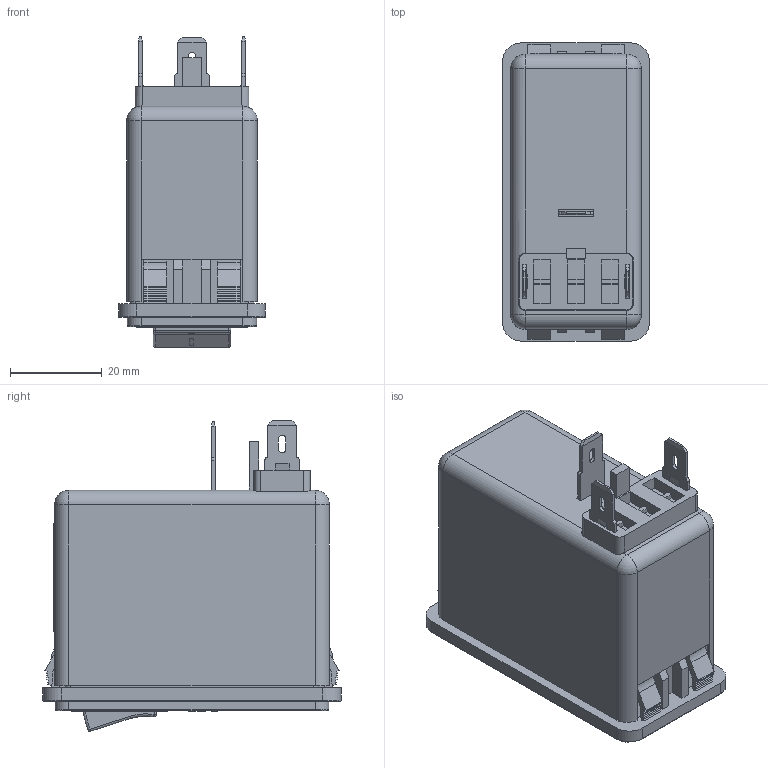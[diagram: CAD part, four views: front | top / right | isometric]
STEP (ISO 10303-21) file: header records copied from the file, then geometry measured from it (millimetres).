
FILE_DESCRIPTION((''),'2;1');
FILE_NAME('D:\_ PRODUCT\FN281-6\_New design for 1fuse\Version_3_update FH_after tel.con_030609\FN285-xx-06_.stp','2012-10-24T09:18:09',('sayan.penton'),(''),'Autodesk Inventor 2010','Autodesk Inventor 2010','');
FILE_SCHEMA(('AUTOMOTIVE_DESIGN { 1 0 10303 214 1 1 1 1 }'));
Length unit declared in the file: millimetre
Products named in the file (1): Part4
Bounding box: 32 x 65 x 67.75 mm (x, y, z)
Volume: 32465.2 mm3; surface area: 42574.9 mm2
Topology: 1 solids, 1 shells, 3177 faces, 9231 edges, 6081 vertices
Faces by surface type: plane 2515, bspline 480, cylinder 162, torus 12, sphere 8
Full cylindrical faces by diameter (mm): 0.46 x1, 0.56 x1, 1.2 x2, 1.5 x2, 2.135 x1, 2.55 x1, 2.99 x1, 3 x1, 3.134 x1, 4 x2
Entity records: 118323 total; most frequent: CARTESIAN_POINT 33325, ORIENTED_EDGE 18416, DIRECTION 14470, EDGE_CURVE 9208, VECTOR 8280, LINE 8280, VERTEX_POINT 6079, EDGE_LOOP 3353
